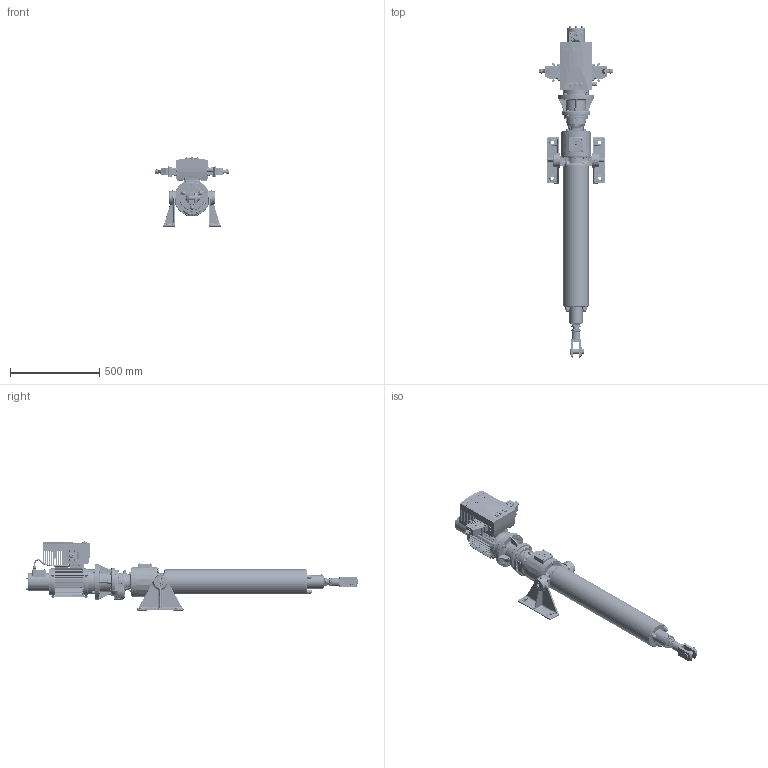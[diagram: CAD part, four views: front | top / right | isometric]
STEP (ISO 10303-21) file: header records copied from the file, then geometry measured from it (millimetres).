
FILE_DESCRIPTION( ( '153-599-4' ), '1' );
FILE_NAME( 'C:/daten/bearbeitung katalogbilder/RBs rendern/austausch pomplun/mit identnr/T1M6-RM-0600-160-251-9.stp', 'Unknown', ( 'Christoph Hahmann' ), ( 'RACO-ELEKTRO-MASCHINEN GmbH' ), 'PSStep 17.0.49', 'Solid Edge ST 7', ' ' );
FILE_SCHEMA( ( 'AUTOMOTIVE_DESIGN { 1 0 10303 214 1 1 1 1 }' ) );
Length unit declared in the file: millimetre
Products named in the file (16): Assem1; 03.01-06 kpl; 02.14-06-0600; 01.15-06-0600; 02.01-06 kpl; 01.14-06 kpl2; 105-238-1 kpl; 01.01-06 Gabelkopf; Gehäuse A2- CAN; 03.65-06-7; 10.02-04-08 105-983-12; Kabel zum Motor 90L4; 90L4-141-907-2 mit Adapter; 04.01-05-7-130; 157-713-1-3; BG2-155-450-6-kpl
Assembly tree (16 placements, depth 2):
  Assem1
    03.01-06 kpl
    02.14-06-0600
    01.15-06-0600
    02.01-06 kpl
    01.14-06 kpl2
    105-238-1 kpl
    01.01-06 Gabelkopf
    Gehäuse A2- CAN
    03.65-06-7  x2
    10.02-04-08 105-983-12
    Kabel zum Motor 90L4
    90L4-141-907-2 mit Adapter
    04.01-05-7-130
    157-713-1-3
    BG2-155-450-6-kpl
Bounding box: 412.49 x 1858 x 386.55 mm (x, y, z)
Surface area: 2792567.9 mm2 (no closed solid volume)
Topology: 0 solids, 11768 shells, 11784 faces, 57408 edges, 55668 vertices
Faces by surface type: plane 5274, cylinder 3082, bspline 1301, cone 1045, torus 684, sphere 355, extrusion 38, revolution 5
Full cylindrical faces by diameter (mm): 1.6 x2, 2 x1, 2.6 x1, 3 x31, 3.141 x8, 3.242 x24, 4 x26, 4.134 x3, 4.188 x6, 4.4 x8, 4.5 x14, 4.773 x13, 4.917 x6, 5 x43, 5.3 x3, 5.5 x9, 5.7 x11, 6 x32, 6.47 x8, 6.6 x11, 6.647 x1, 6.8 x4, 7 x20, 7.5 x3, 7.6 x8, 8 x31, 8.15 x1, 8.2 x1, 8.376 x20, 8.4 x6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
Entity records: 858830 total; most frequent: CARTESIAN_POINT 354785, DIRECTION 87419, VERTEX_POINT 54327, ORIENTED_EDGE 54258, EDGE_CURVE 54258, AXIS2_PLACEMENT_3D 30658, VECTOR 26098, LINE 26060
